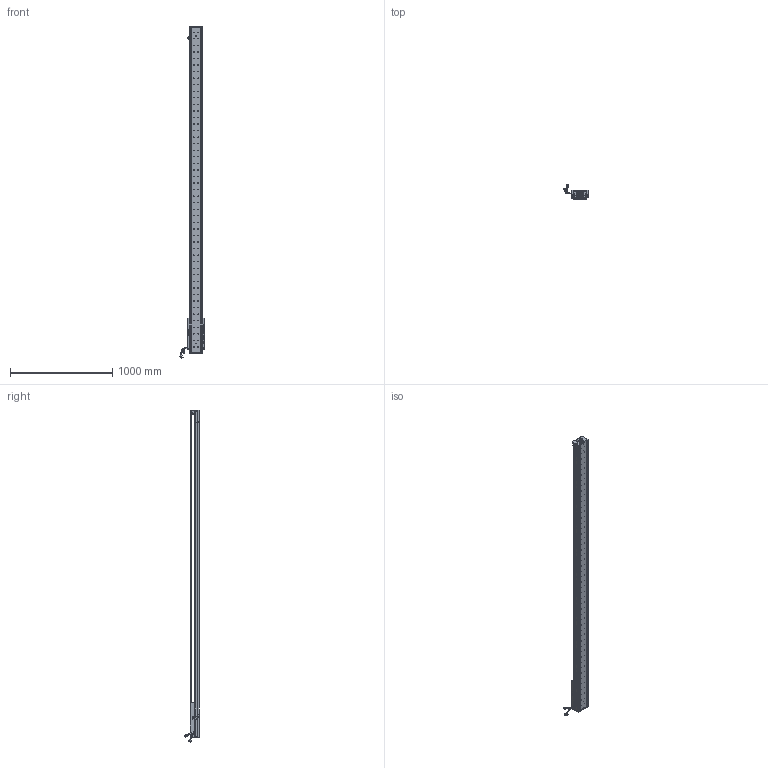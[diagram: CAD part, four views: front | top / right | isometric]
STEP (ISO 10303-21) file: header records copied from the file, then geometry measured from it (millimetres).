
FILE_DESCRIPTION (( 'STEP AP203' ), '1' );
FILE_NAME ('Z4-RY140D-1-L500-B-K.SLDASM_2800.step', '2021-05-17T08:21:26', ( '盈信电脑' ), ( '东莞市道滘镇水果街19号' ), 'SwSTEP 2.0', 'SolidWorks 2016', '' );
FILE_SCHEMA (( 'CONFIG_CONTROL_DESIGN' ));
Length unit declared in the file: millimetre
Products named in the file (36): 覜茼ん672; SCREW-M1.6-1; LABEL-Part-1; SCREW-M1.7-1; SCREW-M1.7; SCALE-Part-2; COVER; Z4-RY140圉猾敕臏賑輸(21遴); SEAL; Z-140詩湍傷裔啣; HARNESS; HARNESS-Part-1; SCALE-Part-1; LABEL; 140蚥薯蝶輸; Z4-RY140D-1-L500-B-K.SLDASM_2800; Z4-RY140-L500直线电机模组底座_2800; 詩湍狟揤裔; 榋妏寠巭燃_暯_M2_2; 140-Z-臏賑輸盄裔(21遴); HOLDER0; 080黍杅芛假蚾釱21遴; SEAL-Part-1; PBU_SHEET; SCREW-M1.6-3; SCALE; Z-RY140感应器672光电感应片; 詩湍奻揤裔; SCREW-M1.6; SCREW-M1.6-2; HARNESS-Part-2; COVER-Part-1; SHIELDPLATE; 140雄赽晤鎢ん堤盄; PSLH080_PSLF2; Z4-RY140-L500詩湍100mm遵_2800
Assembly tree (41 placements, depth 4):
  Z4-RY140D-1-L500-B-K.SLDASM_2800
    Z4-RY140-L500直线电机模组底座_2800
    Z-RY140感应器672光电感应片
    Z4-RY140圉猾敕臏賑輸(21遴)
    覜茼ん672  x3
    Z4-RY140-L500詩湍100mm遵_2800
    PSLH080_PSLF2
      SCALE
        SCALE-Part-1
        SCALE-Part-2
      HARNESS
        HARNESS-Part-1
        HARNESS-Part-2
      LABEL
        LABEL-Part-1
      COVER
        COVER-Part-1
      SEAL
        SEAL-Part-1
      榋妏寠巭燃_暯_M2_2
      SHIELDPLATE
      SCREW-M1.7
      SCREW-M1.7-1
      PBU_SHEET
      SCREW-M1.6
      SCREW-M1.6-1
      SCREW-M1.6-2
      SCREW-M1.6-3
      HOLDER0
    080黍杅芛假蚾釱21遴
    140-Z-臏賑輸盄裔(21遴)
    Z-140詩湍傷裔啣  x2
    詩湍狟揤裔  x2
    詩湍奻揤裔  x2
    140蚥薯蝶輸  x2
    140雄赽晤鎢ん堤盄
Bounding box: 239.79 x 143.88 x 3240.87 mm (x, y, z)
Volume: 10374996.2 mm3; surface area: 2684788.2 mm2
Topology: 36 solids, 36 shells, 4512 faces, 12351 edges, 7822 vertices
Faces by surface type: cylinder 2508, plane 1440, cone 442, torus 69, bspline 53
Entity records: 145403 total; most frequent: CARTESIAN_POINT 41833, ORIENTED_EDGE 21542, DIRECTION 19719, EDGE_CURVE 10771, AXIS2_PLACEMENT_3D 7356, VERTEX_POINT 6990, VECTOR 5007, LINE 5007
